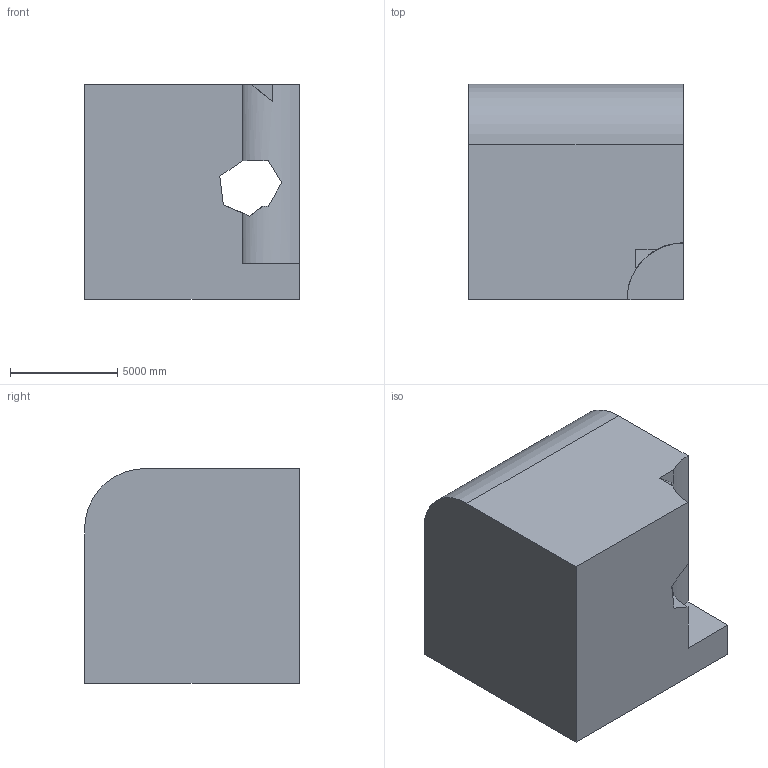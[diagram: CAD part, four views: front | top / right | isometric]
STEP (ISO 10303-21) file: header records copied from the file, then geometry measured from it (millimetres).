
FILE_DESCRIPTION (( 'STEP AP203' ), '1' );
FILE_NAME ('561.STEP', '2022-07-29T11:49:43', ( 'user' ), ( '' ), 'SwSTEP 2.0', 'SolidWorks 2021', '' );
FILE_SCHEMA (( 'CONFIG_CONTROL_DESIGN' ));
Length unit declared in the file: centimetre
Products named in the file (1): 561
Bounding box: 10000 x 10000 x 10000 mm (x, y, z)
Volume: 860104335567.2 mm3; surface area: 688663902.1 mm2
Topology: 1 solids, 1 shells, 24 faces, 66 edges, 44 vertices
Faces by surface type: plane 22, cylinder 2
Entity records: 838 total; most frequent: CARTESIAN_POINT 150, ORIENTED_EDGE 132, DIRECTION 118, EDGE_CURVE 66, LINE 54, VECTOR 54, VERTEX_POINT 44, AXIS2_PLACEMENT_3D 32
